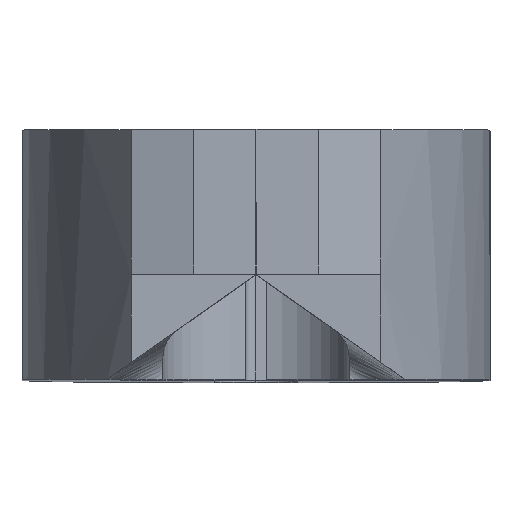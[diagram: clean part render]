
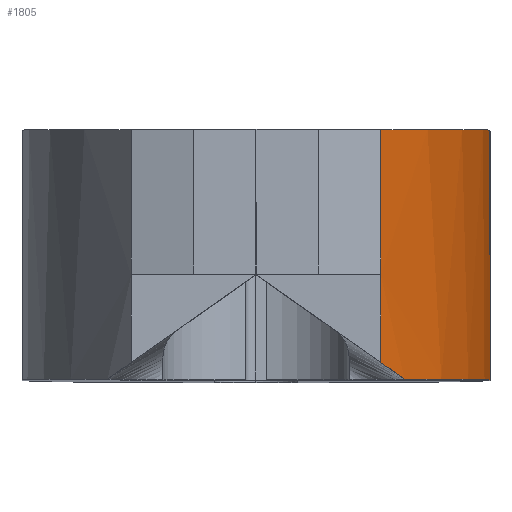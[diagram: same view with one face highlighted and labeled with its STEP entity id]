
A CAD part, top view. The second image highlights one B-rep face of the part: STEP entity #1805.
In plain terms, the highlighted cylindrical face has radius 25 mm (diameter 50 mm), a partial arc.
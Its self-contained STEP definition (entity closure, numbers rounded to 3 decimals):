
#10 = ORIENTED_EDGE ( 'NONE', *, *, #506, .T. ) ;
#74 =( BOUNDED_CURVE ( )  B_SPLINE_CURVE ( 3, ( #2328, #3236, #1517, #3111 ),
 .UNSPECIFIED., .F., .F. ) 
 B_SPLINE_CURVE_WITH_KNOTS ( ( 4, 4 ),
 ( 5.623, 5.702 ),
 .UNSPECIFIED. ) 
 CURVE ( )  GEOMETRIC_REPRESENTATION_ITEM ( )  RATIONAL_B_SPLINE_CURVE ( ( 1., 0.999, 0.999, 1. ) ) 
 REPRESENTATION_ITEM ( '' )  );
#136 = AXIS2_PLACEMENT_3D ( 'NONE', #2798, #1309, #3058 ) ;
#231 = EDGE_CURVE ( 'NONE', #276, #2960, #2449, .T. ) ;
#276 = VERTEX_POINT ( 'NONE', #2811 ) ;
#506 = EDGE_CURVE ( 'NONE', #2064, #2584, #531, .T. ) ;
#510 = CARTESIAN_POINT ( 'NONE',  ( 6., 5., 39.196 ) ) ;
#531 = CIRCLE ( 'NONE', #1296, 25. ) ;
#669 = EDGE_CURVE ( 'NONE', #763, #2064, #74, .T. ) ;
#715 = VECTOR ( 'NONE', #1219, 1000. ) ;
#763 = VERTEX_POINT ( 'NONE', #2377 ) ;
#802 = ORIENTED_EDGE ( 'NONE', *, *, #669, .T. ) ;
#808 = AXIS2_PLACEMENT_3D ( 'NONE', #2225, #3173, #1935 ) ;
#913 = EDGE_CURVE ( 'NONE', #276, #2195, #1736, .T. ) ;
#947 = DIRECTION ( 'NONE',  ( 0., 1., 0. ) ) ;
#1208 = CARTESIAN_POINT ( 'NONE',  ( 6., 6., 39.196 ) ) ;
#1219 = DIRECTION ( 'NONE',  ( 0., -1., 0. ) ) ;
#1221 = CARTESIAN_POINT ( 'NONE',  ( 11.25, 0., 23.868 ) ) ;
#1296 = AXIS2_PLACEMENT_3D ( 'NONE', #2459, #947, #2707 ) ;
#1309 = DIRECTION ( 'NONE',  ( 0., 1., 0. ) ) ;
#1492 = DIRECTION ( 'NONE',  ( 0., -1., 0. ) ) ;
#1517 = CARTESIAN_POINT ( 'NONE',  ( 6.781, 0.252, 38.147 ) ) ;
#1590 = VECTOR ( 'NONE', #1492, 1000. ) ;
#1670 = CARTESIAN_POINT ( 'NONE',  ( 6., 6., 39.196 ) ) ;
#1678 = LINE ( 'NONE', #3249, #1590 ) ;
#1736 = LINE ( 'NONE', #1670, #3063 ) ;
#1757 = DIRECTION ( 'NONE',  ( 0., -1., 0. ) ) ;
#1805 = ADVANCED_FACE ( 'NONE', ( #2387 ), #2301, .T. ) ;
#1886 = ORIENTED_EDGE ( 'NONE', *, *, #231, .F. ) ;
#1904 = EDGE_CURVE ( 'NONE', #2195, #763, #2727, .T. ) ;
#1935 = DIRECTION ( 'NONE',  ( 1., 0., 0. ) ) ;
#2064 = VERTEX_POINT ( 'NONE', #3124 ) ;
#2164 = ORIENTED_EDGE ( 'NONE', *, *, #1904, .T. ) ;
#2195 = VERTEX_POINT ( 'NONE', #510 ) ;
#2225 = CARTESIAN_POINT ( 'NONE',  ( -13.75, 12., 23.868 ) ) ;
#2235 = EDGE_LOOP ( 'NONE', ( #1886, #2553, #2164, #802, #10, #2537 ) ) ;
#2301 = CYLINDRICAL_SURFACE ( 'NONE', #808, 25. ) ;
#2328 = CARTESIAN_POINT ( 'NONE',  ( 6., 0.799, 39.196 ) ) ;
#2377 = CARTESIAN_POINT ( 'NONE',  ( 6., 0.799, 39.196 ) ) ;
#2387 = FACE_OUTER_BOUND ( 'NONE', #2235, .T. ) ;
#2449 = CIRCLE ( 'NONE', #136, 25. ) ;
#2459 = CARTESIAN_POINT ( 'NONE',  ( -13.75, 0., 23.868 ) ) ;
#2537 = ORIENTED_EDGE ( 'NONE', *, *, #2615, .F. ) ;
#2553 = ORIENTED_EDGE ( 'NONE', *, *, #913, .T. ) ;
#2584 = VERTEX_POINT ( 'NONE', #1221 ) ;
#2615 = EDGE_CURVE ( 'NONE', #2960, #2584, #1678, .T. ) ;
#2707 = DIRECTION ( 'NONE',  ( 1., 0., 0. ) ) ;
#2727 = LINE ( 'NONE', #1208, #715 ) ;
#2798 = CARTESIAN_POINT ( 'NONE',  ( -13.75, 12., 23.868 ) ) ;
#2811 = CARTESIAN_POINT ( 'NONE',  ( 6., 12., 39.196 ) ) ;
#2916 = CARTESIAN_POINT ( 'NONE',  ( 11.25, 12., 23.868 ) ) ;
#2960 = VERTEX_POINT ( 'NONE', #2916 ) ;
#3058 = DIRECTION ( 'NONE',  ( 1., 0., 0. ) ) ;
#3063 = VECTOR ( 'NONE', #1757, 1000. ) ;
#3111 = CARTESIAN_POINT ( 'NONE',  ( 7.141, 0., 37.601 ) ) ;
#3124 = CARTESIAN_POINT ( 'NONE',  ( 7.141, 0., 37.601 ) ) ;
#3173 = DIRECTION ( 'NONE',  ( 0., -1., 0. ) ) ;
#3236 = CARTESIAN_POINT ( 'NONE',  ( 6.401, 0.518, 38.679 ) ) ;
#3249 = CARTESIAN_POINT ( 'NONE',  ( 11.25, 6., 23.868 ) ) ;
